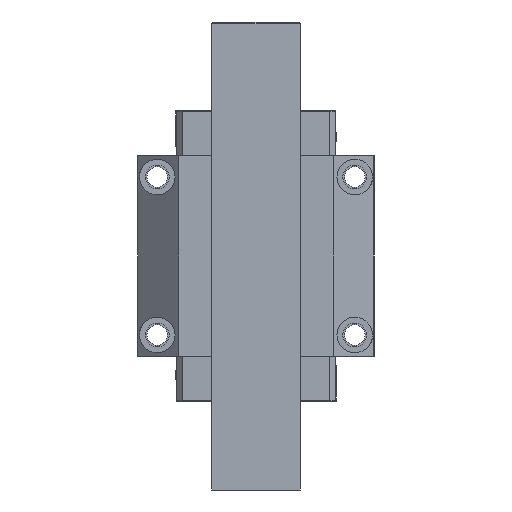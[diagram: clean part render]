
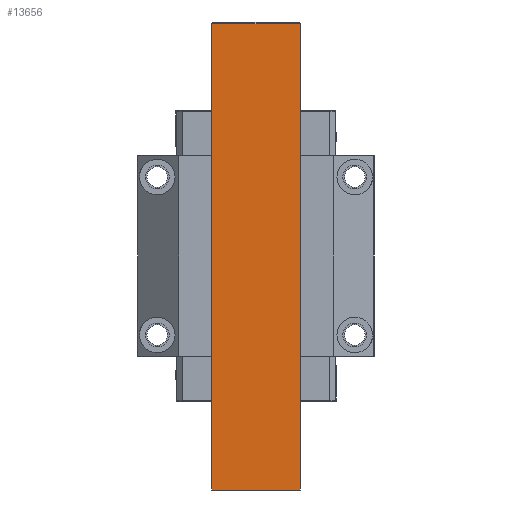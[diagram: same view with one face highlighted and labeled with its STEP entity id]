
A CAD part, front view. The second image highlights one B-rep face of the part: STEP entity #13656.
In plain terms, the highlighted planar face has unit normal (0, -1, 0).
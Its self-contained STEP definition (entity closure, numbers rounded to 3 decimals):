
#12993=DIRECTION('',(1.,0.,0.));
#12994=VECTOR('',#12993,45.);
#12995=CARTESIAN_POINT('',(-22.5,-23.5,-118.5));
#12996=LINE('',#12995,#12994);
#13117=DIRECTION('',(0.,0.,1.));
#13118=VECTOR('',#13117,236.134);
#13119=CARTESIAN_POINT('',(22.5,-23.5,-118.5));
#13120=LINE('',#13119,#13118);
#13121=DIRECTION('',(1.,0.,0.));
#13122=VECTOR('',#13121,45.);
#13123=CARTESIAN_POINT('',(-22.5,-23.5,117.634));
#13124=LINE('',#13123,#13122);
#13125=DIRECTION('',(0.,0.,1.));
#13126=VECTOR('',#13125,236.134);
#13127=CARTESIAN_POINT('',(-22.5,-23.5,-118.5));
#13128=LINE('',#13127,#13126);
#13309=CARTESIAN_POINT('',(22.5,-23.5,117.634));
#13311=VERTEX_POINT('',#13309);
#13313=CARTESIAN_POINT('',(-22.5,-23.5,117.634));
#13315=VERTEX_POINT('',#13313);
#13357=CARTESIAN_POINT('',(-22.5,-23.5,-118.5));
#13358=VERTEX_POINT('',#13357);
#13359=CARTESIAN_POINT('',(22.5,-23.5,-118.5));
#13360=VERTEX_POINT('',#13359);
#13643=CARTESIAN_POINT('',(-22.5,-23.5,-118.5));
#13644=DIRECTION('',(0.,-1.,0.));
#13645=DIRECTION('',(1.,0.,0.));
#13646=AXIS2_PLACEMENT_3D('',#13643,#13644,#13645);
#13647=PLANE('',#13646);
#13649=ORIENTED_EDGE('',*,*,#13648,.T.);
#13650=ORIENTED_EDGE('',*,*,#13638,.F.);
#13651=ORIENTED_EDGE('',*,*,#13398,.F.);
#13653=ORIENTED_EDGE('',*,*,#13652,.T.);
#13654=EDGE_LOOP('',(#13649,#13650,#13651,#13653));
#13655=FACE_OUTER_BOUND('',#13654,.F.);
#13398=EDGE_CURVE('',#13358,#13360,#12996,.T.);
#13638=EDGE_CURVE('',#13360,#13311,#13120,.T.);
#13648=EDGE_CURVE('',#13315,#13311,#13124,.T.);
#13652=EDGE_CURVE('',#13358,#13315,#13128,.T.);
#13656=ADVANCED_FACE('',(#13655),#13647,.T.);
